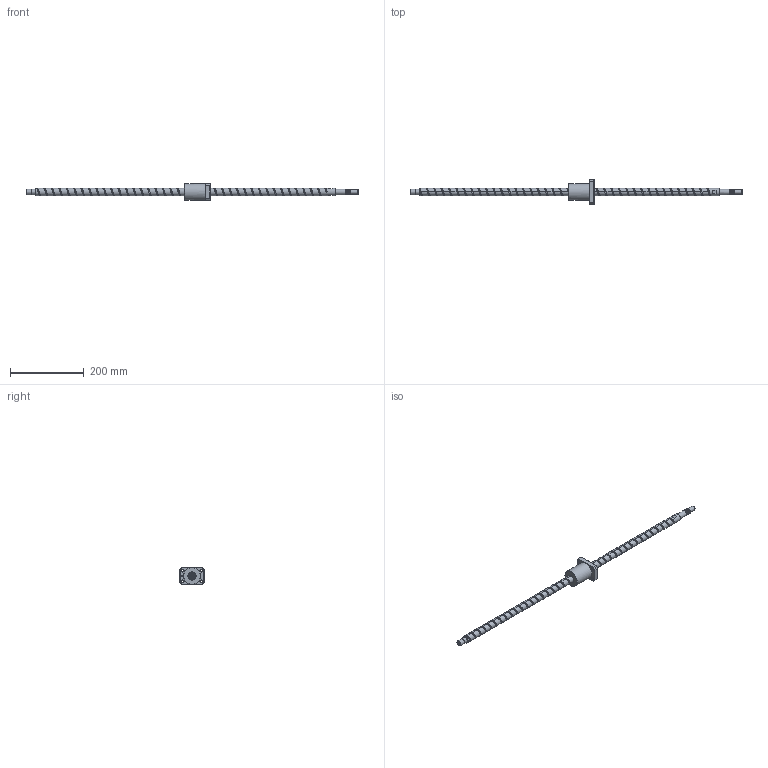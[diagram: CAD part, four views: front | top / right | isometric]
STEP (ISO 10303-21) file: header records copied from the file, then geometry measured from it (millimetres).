
FILE_DESCRIPTION (( 'STEP AP203' ), '1' );
FILE_NAME ('XSVR02020A1DGC5-899-P1.step', '2024-06-03T06:49:01', ( '' ), ( '' ), 'SwSTEP 2.0', 'SolidWorks 2022', '' );
FILE_SCHEMA (( 'CONFIG_CONTROL_DESIGN' ));
Length unit declared in the file: millimetre
Products named in the file (1): XSVR02020A1DGC5-899-P1
Bounding box: 899 x 66 x 46 mm (x, y, z)
Volume: 364451.3 mm3; surface area: 80872.5 mm2
Topology: 2 solids, 2 shells, 196 faces, 538 edges, 354 vertices
Faces by surface type: cylinder 98, plane 40, bspline 29, cone 20, torus 9
Full cylindrical faces by diameter (mm): 4 x1, 5 x15, 6.6 x4, 11 x4, 12 x1, 14.3 x1, 15 x16, 20 x40, 22.1 x1, 46 x1
Entity records: 29112 total; most frequent: CARTESIAN_POINT 26494, ORIENTED_EDGE 576, DIRECTION 407, EDGE_CURVE 288, VERTEX_POINT 206, EDGE_LOOP 184, AXIS2_PLACEMENT_3D 178, FACE_OUTER_BOUND 146
